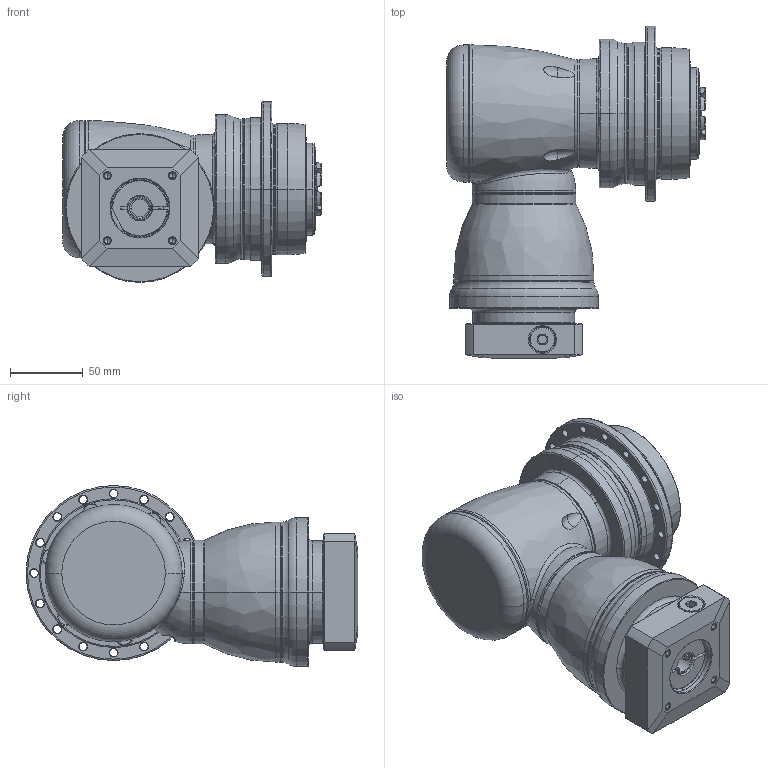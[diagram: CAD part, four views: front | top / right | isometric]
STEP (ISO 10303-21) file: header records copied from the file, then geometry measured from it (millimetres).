
FILE_DESCRIPTION((''),'2;1');
FILE_NAME('APCK090_2ST_14-P0409320201_ASM','2018-10-26T',('d01226'),(''),'PRO/ENGINEER BY PARAMETRIC TECHNOLOGY CORPORATION, 2015240','PRO/ENGINEER BY PARAMETRIC TECHNOLOGY CORPORATION, 2015240','');
FILE_SCHEMA(('CONFIG_CONTROL_DESIGN'));
Length unit declared in the file: millimetre
Products named in the file (13): P1008300002; P1802310011; P0278301003; P0359330103; P1211300001; P1315300001; P1007301001; P1318310101; P0409320201; P0503300006; P0129301001; 21711412017; APCK090_2ST_14-P0409320201_ASM
Assembly tree (12 placements, depth 2):
  APCK090_2ST_14-P0409320201_ASM
    P1008300002
    P1802310011
    P0278301003
    P0359330103
    P1211300001
    P1315300001
    P1007301001
    P1318310101
    P0409320201
    P0503300006
    P0129301001
    21711412017
Bounding box: 177.4 x 227.5 x 124 mm (x, y, z)
Volume: 1897689 mm3; surface area: 258889 mm2
Topology: 13 solids, 23 shells, 726 faces, 1708 edges, 1042 vertices
Faces by surface type: cylinder 255, cone 179, plane 151, torus 100, bspline 39, sphere 2
Entity records: 25962 total; most frequent: CARTESIAN_POINT 8920, DIRECTION 3802, ORIENTED_EDGE 3322, EDGE_CURVE 1682, AXIS2_PLACEMENT_3D 1644, VERTEX_POINT 1036, CIRCLE 922, EDGE_LOOP 826
